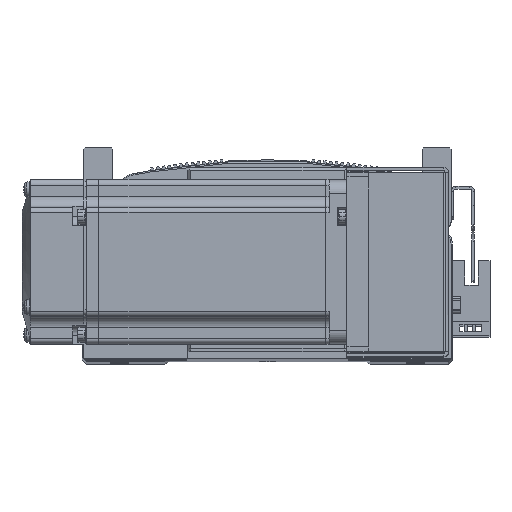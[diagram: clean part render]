
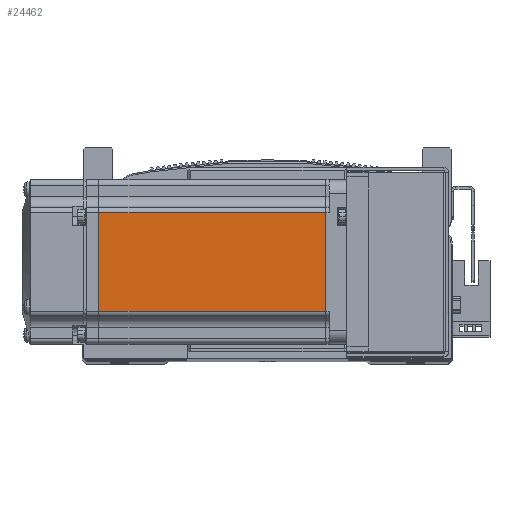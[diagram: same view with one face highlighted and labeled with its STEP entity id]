
A CAD part, top view. The second image highlights one B-rep face of the part: STEP entity #24462.
In plain terms, the highlighted planar face has unit normal (0, 0, 1) as drawn and (0, -1, 0) by its records, which use the part's own axes.
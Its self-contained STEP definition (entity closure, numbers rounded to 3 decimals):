
#2542 = VECTOR ( 'NONE', #50313, 1000. ) ;
#2544 = LINE ( 'NONE', #50292, #2554 ) ;
#2554 = VECTOR ( 'NONE', #50278, 1000. ) ;
#2562 = LINE ( 'NONE', #50312, #2542 ) ;
#2655 = VECTOR ( 'NONE', #50273, 1000. ) ;
#2674 = LINE ( 'NONE', #50287, #2655 ) ;
#7669 = VERTEX_POINT ( 'NONE', #80550 ) ;
#7687 = VERTEX_POINT ( 'NONE', #80526 ) ;
#7711 = VERTEX_POINT ( 'NONE', #80545 ) ;
#7751 = VERTEX_POINT ( 'NONE', #80605 ) ;
#10906 = EDGE_CURVE ( 'NONE', #7687, #7669, #61105, .T. ) ;
#19195 = EDGE_LOOP ( 'NONE', ( #27571, #27550, #27581, #27561 ) ) ;
#24462 = ADVANCED_FACE ( 'NONE', ( #45484 ), #71302, .T. ) ;
#27550 = ORIENTED_EDGE ( 'NONE', *, *, #32254, .T. ) ;
#27561 = ORIENTED_EDGE ( 'NONE', *, *, #32263, .F. ) ;
#27571 = ORIENTED_EDGE ( 'NONE', *, *, #10906, .F. ) ;
#27581 = ORIENTED_EDGE ( 'NONE', *, *, #32255, .T. ) ;
#32254 = EDGE_CURVE ( 'NONE', #7687, #7751, #2544, .T. ) ;
#32255 = EDGE_CURVE ( 'NONE', #7751, #7711, #2562, .T. ) ;
#32263 = EDGE_CURVE ( 'NONE', #7669, #7711, #2674, .T. ) ;
#45484 = FACE_OUTER_BOUND ( 'NONE', #19195, .T. ) ;
#50273 = DIRECTION ( 'NONE',  ( -1., 0., 0. ) ) ;
#50278 = DIRECTION ( 'NONE',  ( -1., 0., 0. ) ) ;
#50287 = CARTESIAN_POINT ( 'NONE',  ( -6.5, -30., -18. ) ) ;
#50292 = CARTESIAN_POINT ( 'NONE',  ( -6.5, -30., 18. ) ) ;
#50312 = CARTESIAN_POINT ( 'NONE',  ( -90.45, -30., 0. ) ) ;
#50313 = DIRECTION ( 'NONE',  ( 0., 0., -1. ) ) ;
#55902 = CARTESIAN_POINT ( 'NONE',  ( -7.75, -30., 0. ) ) ;
#55979 = DIRECTION ( 'NONE',  ( 0., 0., -1. ) ) ;
#61104 = VECTOR ( 'NONE', #55979, 1000. ) ;
#61105 = LINE ( 'NONE', #55902, #61104 ) ;
#67099 = AXIS2_PLACEMENT_3D ( 'NONE', #71307, #71359, #71325 ) ;
#71302 = PLANE ( 'NONE',  #67099 ) ;
#71307 = CARTESIAN_POINT ( 'NONE',  ( -6.5, -30., -25. ) ) ;
#71325 = DIRECTION ( 'NONE',  ( 0., 0., -1. ) ) ;
#71359 = DIRECTION ( 'NONE',  ( 0., -1., 0. ) ) ;
#80526 = CARTESIAN_POINT ( 'NONE',  ( -7.75, -30., 18. ) ) ;
#80545 = CARTESIAN_POINT ( 'NONE',  ( -90.45, -30., -18. ) ) ;
#80550 = CARTESIAN_POINT ( 'NONE',  ( -7.75, -30., -18. ) ) ;
#80605 = CARTESIAN_POINT ( 'NONE',  ( -90.45, -30., 18. ) ) ;
